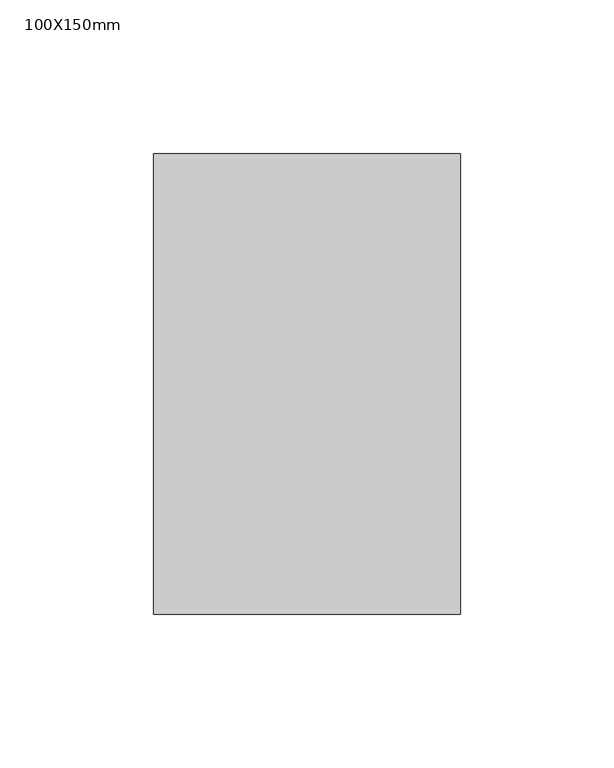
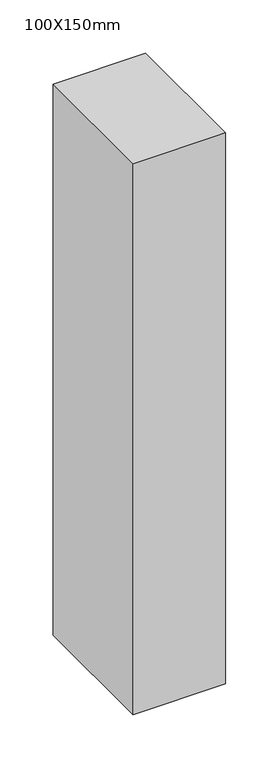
"""IFC4 building model written with IfcOpenShell, lengths in millimetres: member geometry, 矩形竖梃 : 100X150mm."""

from ifc_helpers import new_model, si_unit, frame, origin, place, context, project, spatial, polyline, outline, extrude, source, transform, mapped, element, save


def member_100x150mm_210a08aa(model_context):
    return source(origin(), model_context, "Body", "SweptSolid", [
        extrude(outline(polyline([(0.0, 75.0), (0.0, -75.0), (-100.0, -75.0), (-100.0, 75.0), (0.0, 75.0)])), frame((0.0, 0.0, -630.0), z_axis=(0.0, 0.0, 1.0), x_axis=(1.0, 0.0, 0.0)), (0.0, 0.0, 1.0), 630.0),
    ])


if __name__ == "__main__":
    model = new_model("IFC4")
    model_context = context("Model", 3, world=origin())
    ifc_project = project(units=[si_unit("LENGTHUNIT", "METRE", prefix="MILLI")], contexts=[model_context])
    site = spatial("IfcSite", under=ifc_project)
    building = spatial("IfcBuilding", under=site)
    placement = place(None, origin())
    member_100x150mm_shape = member_100x150mm_210a08aa(model_context)
    element("IfcMember", 1, ObjectType="矩形竖梃 : 100X150mm", at=placement, inside=building, context=model_context, shape_type="MappedRepresentation", body=[
        mapped(member_100x150mm_shape, transform((0.0, 0.0, 0.0), x_axis=(1.0, 0.0, 0.0), y_axis=(0.0, 1.0, 0.0), z_axis=(0.0, 0.0, 1.0))),
    ])
    save(model, "model.ifc")
